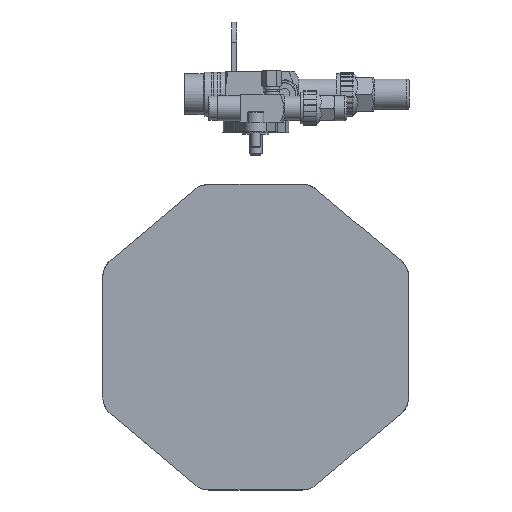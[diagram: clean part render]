
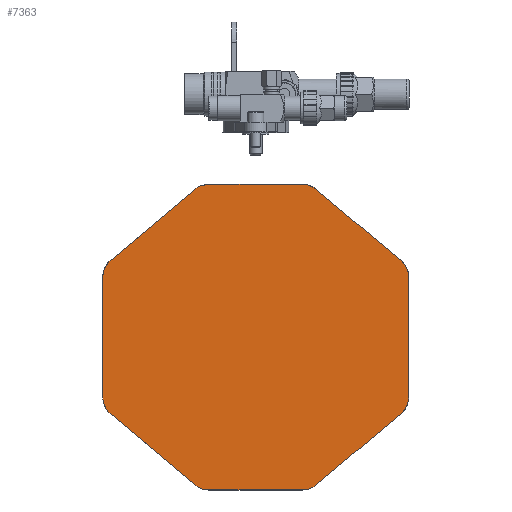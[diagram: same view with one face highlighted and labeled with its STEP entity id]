
A CAD part, left-side view. The second image highlights one B-rep face of the part: STEP entity #7363.
In plain terms, the highlighted planar face has unit normal (-1, 0, 0) as drawn and (0, 0, 1) by its records, which use the part's own axes.
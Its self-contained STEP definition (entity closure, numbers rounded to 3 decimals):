
#7363=ADVANCED_FACE('',(#8713),#8024,.F.);
#8024=PLANE('',#21228);
#8713=FACE_OUTER_BOUND('',#9588,.T.);
#9588=EDGE_LOOP('',(#13186,#13187,#13188,#13189,#13190,#13191,#13192,#13193,
#13194,#13195,#13196,#13197,#13198,#13199,#13200,#13201));
#10239=CIRCLE('',#21220,16.);
#10240=CIRCLE('',#21221,16.);
#10241=CIRCLE('',#21222,16.);
#10242=CIRCLE('',#21223,16.);
#10243=CIRCLE('',#21224,16.);
#10244=CIRCLE('',#21225,16.);
#10245=CIRCLE('',#21226,16.);
#10246=CIRCLE('',#21227,16.);
#13186=ORIENTED_EDGE('',*,*,#17357,.T.);
#13187=ORIENTED_EDGE('',*,*,#17358,.T.);
#13188=ORIENTED_EDGE('',*,*,#17359,.T.);
#13189=ORIENTED_EDGE('',*,*,#17360,.T.);
#13190=ORIENTED_EDGE('',*,*,#17361,.T.);
#13191=ORIENTED_EDGE('',*,*,#17362,.T.);
#13192=ORIENTED_EDGE('',*,*,#17363,.T.);
#13193=ORIENTED_EDGE('',*,*,#17364,.T.);
#13194=ORIENTED_EDGE('',*,*,#17365,.T.);
#13195=ORIENTED_EDGE('',*,*,#17366,.T.);
#13196=ORIENTED_EDGE('',*,*,#17367,.T.);
#13197=ORIENTED_EDGE('',*,*,#17368,.T.);
#13198=ORIENTED_EDGE('',*,*,#17369,.T.);
#13199=ORIENTED_EDGE('',*,*,#17370,.T.);
#13200=ORIENTED_EDGE('',*,*,#17371,.T.);
#13201=ORIENTED_EDGE('',*,*,#17372,.T.);
#15514=VERTEX_POINT('',#29602);
#15515=VERTEX_POINT('',#29603);
#15516=VERTEX_POINT('',#29605);
#15517=VERTEX_POINT('',#29607);
#15518=VERTEX_POINT('',#29609);
#15519=VERTEX_POINT('',#29611);
#15520=VERTEX_POINT('',#29613);
#15521=VERTEX_POINT('',#29615);
#15522=VERTEX_POINT('',#29617);
#15523=VERTEX_POINT('',#29619);
#15524=VERTEX_POINT('',#29621);
#15525=VERTEX_POINT('',#29623);
#15526=VERTEX_POINT('',#29625);
#15527=VERTEX_POINT('',#29627);
#15528=VERTEX_POINT('',#29629);
#15529=VERTEX_POINT('',#29631);
#17357=EDGE_CURVE('',#15514,#15515,#18871,.T.);
#17358=EDGE_CURVE('',#15515,#15516,#10239,.T.);
#17359=EDGE_CURVE('',#15516,#15517,#18872,.T.);
#17360=EDGE_CURVE('',#15517,#15518,#10240,.T.);
#17361=EDGE_CURVE('',#15518,#15519,#18873,.T.);
#17362=EDGE_CURVE('',#15519,#15520,#10241,.T.);
#17363=EDGE_CURVE('',#15520,#15521,#18874,.T.);
#17364=EDGE_CURVE('',#15521,#15522,#10242,.T.);
#17365=EDGE_CURVE('',#15522,#15523,#18875,.T.);
#17366=EDGE_CURVE('',#15523,#15524,#10243,.T.);
#17367=EDGE_CURVE('',#15524,#15525,#18876,.T.);
#17368=EDGE_CURVE('',#15525,#15526,#10244,.T.);
#17369=EDGE_CURVE('',#15526,#15527,#18877,.T.);
#17370=EDGE_CURVE('',#15527,#15528,#10245,.T.);
#17371=EDGE_CURVE('',#15528,#15529,#18878,.T.);
#17372=EDGE_CURVE('',#15529,#15514,#10246,.T.);
#18871=LINE('',#29601,#20015);
#18872=LINE('',#29606,#20016);
#18873=LINE('',#29610,#20017);
#18874=LINE('',#29614,#20018);
#18875=LINE('',#29618,#20019);
#18876=LINE('',#29622,#20020);
#18877=LINE('',#29626,#20021);
#18878=LINE('',#29630,#20022);
#20015=VECTOR('',#24288,1.);
#20016=VECTOR('',#24291,1.);
#20017=VECTOR('',#24294,1.);
#20018=VECTOR('',#24297,1.);
#20019=VECTOR('',#24300,1.);
#20020=VECTOR('',#24303,1.);
#20021=VECTOR('',#24306,1.);
#20022=VECTOR('',#24309,1.);
#21220=AXIS2_PLACEMENT_3D('',#29604,#24289,#24290);
#21221=AXIS2_PLACEMENT_3D('',#29608,#24292,#24293);
#21222=AXIS2_PLACEMENT_3D('',#29612,#24295,#24296);
#21223=AXIS2_PLACEMENT_3D('',#29616,#24298,#24299);
#21224=AXIS2_PLACEMENT_3D('',#29620,#24301,#24302);
#21225=AXIS2_PLACEMENT_3D('',#29624,#24304,#24305);
#21226=AXIS2_PLACEMENT_3D('',#29628,#24307,#24308);
#21227=AXIS2_PLACEMENT_3D('',#29632,#24310,#24311);
#21228=AXIS2_PLACEMENT_3D('',#29633,#24312,#24313);
#24288=DIRECTION('',(0.,-1.,0.));
#24289=DIRECTION('',(0.,0.,1.));
#24290=DIRECTION('',(-1.,0.,0.));
#24291=DIRECTION('',(0.766,-0.643,0.));
#24292=DIRECTION('',(0.,0.,1.));
#24293=DIRECTION('',(-1.,0.,0.));
#24294=DIRECTION('',(1.,0.,0.));
#24295=DIRECTION('',(0.,0.,1.));
#24296=DIRECTION('',(-1.,0.,0.));
#24297=DIRECTION('',(0.766,0.643,0.));
#24298=DIRECTION('',(0.,0.,1.));
#24299=DIRECTION('',(-1.,0.,0.));
#24300=DIRECTION('',(0.,1.,0.));
#24301=DIRECTION('',(0.,0.,1.));
#24302=DIRECTION('',(-1.,0.,0.));
#24303=DIRECTION('',(-0.766,0.643,0.));
#24304=DIRECTION('',(0.,0.,1.));
#24305=DIRECTION('',(-1.,0.,0.));
#24306=DIRECTION('',(-1.,0.,0.));
#24307=DIRECTION('',(0.,0.,1.));
#24308=DIRECTION('',(-1.,0.,0.));
#24309=DIRECTION('',(-0.766,-0.643,0.));
#24310=DIRECTION('',(0.,0.,1.));
#24311=DIRECTION('',(-1.,0.,0.));
#24312=DIRECTION('',(0.,0.,-1.));
#24313=DIRECTION('',(-1.,0.,0.));
#29601=CARTESIAN_POINT('',(-120.6,0.,40.38));
#29602=CARTESIAN_POINT('',(-120.6,47.941,40.38));
#29603=CARTESIAN_POINT('',(-120.6,-47.941,40.38));
#29604=CARTESIAN_POINT('',(-104.6,-47.941,40.38));
#29605=CARTESIAN_POINT('',(-114.885,-60.198,40.38));
#29606=CARTESIAN_POINT('',(-120.6,-55.402,40.38));
#29607=CARTESIAN_POINT('',(-47.361,-116.857,40.38));
#29608=CARTESIAN_POINT('',(-37.076,-104.6,40.38));
#29609=CARTESIAN_POINT('',(-37.076,-120.6,40.38));
#29610=CARTESIAN_POINT('',(0.,-120.6,40.38));
#29611=CARTESIAN_POINT('',(37.076,-120.6,40.38));
#29612=CARTESIAN_POINT('',(37.076,-104.6,40.38));
#29613=CARTESIAN_POINT('',(47.361,-116.857,40.38));
#29614=CARTESIAN_POINT('',(42.9,-120.6,40.38));
#29615=CARTESIAN_POINT('',(114.885,-60.198,40.38));
#29616=CARTESIAN_POINT('',(104.6,-47.941,40.38));
#29617=CARTESIAN_POINT('',(120.6,-47.941,40.38));
#29618=CARTESIAN_POINT('',(120.6,0.,40.38));
#29619=CARTESIAN_POINT('',(120.6,47.941,40.38));
#29620=CARTESIAN_POINT('',(104.6,47.941,40.38));
#29621=CARTESIAN_POINT('',(114.885,60.198,40.38));
#29622=CARTESIAN_POINT('',(120.6,55.402,40.38));
#29623=CARTESIAN_POINT('',(47.361,116.857,40.38));
#29624=CARTESIAN_POINT('',(37.076,104.6,40.38));
#29625=CARTESIAN_POINT('',(37.076,120.6,40.38));
#29626=CARTESIAN_POINT('',(0.,120.6,40.38));
#29627=CARTESIAN_POINT('',(-37.076,120.6,40.38));
#29628=CARTESIAN_POINT('',(-37.076,104.6,40.38));
#29629=CARTESIAN_POINT('',(-47.361,116.857,40.38));
#29630=CARTESIAN_POINT('',(-42.9,120.6,40.38));
#29631=CARTESIAN_POINT('',(-114.885,60.198,40.38));
#29632=CARTESIAN_POINT('',(-104.6,47.941,40.38));
#29633=CARTESIAN_POINT('',(0.,-107.5,40.38));
